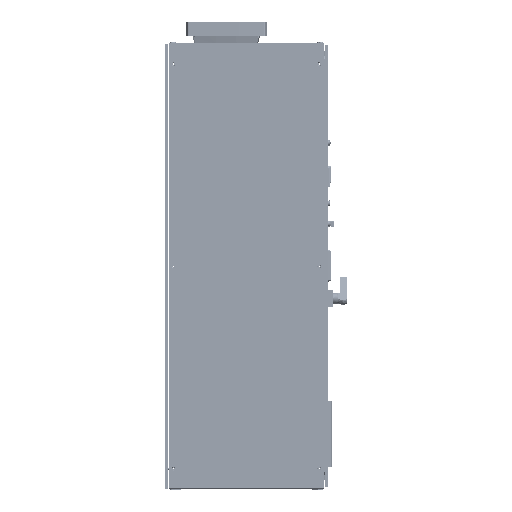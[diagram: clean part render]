
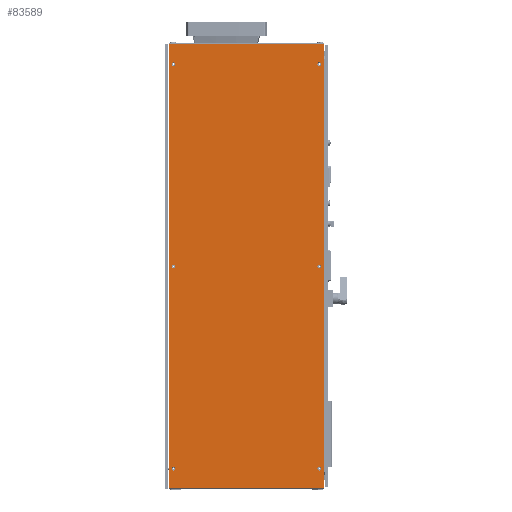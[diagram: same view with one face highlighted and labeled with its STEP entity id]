
A CAD part, left-side view. The second image highlights one B-rep face of the part: STEP entity #83589.
In plain terms, the highlighted planar face has unit normal (-1, 0, 0) as drawn and (0, 0, -1) by its records, which use the part's own axes.
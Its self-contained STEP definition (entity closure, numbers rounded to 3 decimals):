
#82956 = EDGE_CURVE('',#82957,#82957,#82959,.T.);
#82957 = VERTEX_POINT('',#82958);
#82958 = CARTESIAN_POINT('',(369.85,2098.5,0.));
#82959 = CIRCLE('',#82960,9.35);
#82960 = AXIS2_PLACEMENT_3D('',#82961,#82962,#82963);
#82961 = CARTESIAN_POINT('',(360.5,2098.5,0.));
#82962 = DIRECTION('',(0.,-0.,1.));
#82963 = DIRECTION('',(1.,0.,0.));
#83562 = VERTEX_POINT('',#83563);
#83563 = CARTESIAN_POINT('',(-383.75,1.,0.));
#83570 = EDGE_CURVE('',#83571,#83562,#83573,.T.);
#83571 = VERTEX_POINT('',#83572);
#83572 = CARTESIAN_POINT('',(383.75,1.,0.));
#83573 = LINE('',#83574,#83575);
#83574 = CARTESIAN_POINT('',(383.75,1.,0.));
#83575 = VECTOR('',#83576,1.);
#83576 = DIRECTION('',(-1.,-0.,-0.));
#83589 = ADVANCED_FACE('',(#83590,#83601,#83612,#83623,#83634,#83645,
    #83648),#83673,.F.);
#83590 = FACE_BOUND('',#83591,.T.);
#83591 = EDGE_LOOP('',(#83592));
#83592 = ORIENTED_EDGE('',*,*,#83593,.T.);
#83593 = EDGE_CURVE('',#83594,#83594,#83596,.T.);
#83594 = VERTEX_POINT('',#83595);
#83595 = CARTESIAN_POINT('',(-351.15,1098.5,0.));
#83596 = CIRCLE('',#83597,9.35);
#83597 = AXIS2_PLACEMENT_3D('',#83598,#83599,#83600);
#83598 = CARTESIAN_POINT('',(-360.5,1098.5,0.));
#83599 = DIRECTION('',(0.,-0.,1.));
#83600 = DIRECTION('',(1.,0.,0.));
#83601 = FACE_BOUND('',#83602,.T.);
#83602 = EDGE_LOOP('',(#83603));
#83603 = ORIENTED_EDGE('',*,*,#83604,.T.);
#83604 = EDGE_CURVE('',#83605,#83605,#83607,.T.);
#83605 = VERTEX_POINT('',#83606);
#83606 = CARTESIAN_POINT('',(369.85,1098.5,0.));
#83607 = CIRCLE('',#83608,9.35);
#83608 = AXIS2_PLACEMENT_3D('',#83609,#83610,#83611);
#83609 = CARTESIAN_POINT('',(360.5,1098.5,0.));
#83610 = DIRECTION('',(0.,-0.,1.));
#83611 = DIRECTION('',(1.,0.,0.));
#83612 = FACE_BOUND('',#83613,.T.);
#83613 = EDGE_LOOP('',(#83614));
#83614 = ORIENTED_EDGE('',*,*,#83615,.T.);
#83615 = EDGE_CURVE('',#83616,#83616,#83618,.T.);
#83616 = VERTEX_POINT('',#83617);
#83617 = CARTESIAN_POINT('',(-351.15,98.5,0.));
#83618 = CIRCLE('',#83619,9.35);
#83619 = AXIS2_PLACEMENT_3D('',#83620,#83621,#83622);
#83620 = CARTESIAN_POINT('',(-360.5,98.5,0.));
#83621 = DIRECTION('',(0.,-0.,1.));
#83622 = DIRECTION('',(1.,0.,0.));
#83623 = FACE_BOUND('',#83624,.T.);
#83624 = EDGE_LOOP('',(#83625));
#83625 = ORIENTED_EDGE('',*,*,#83626,.T.);
#83626 = EDGE_CURVE('',#83627,#83627,#83629,.T.);
#83627 = VERTEX_POINT('',#83628);
#83628 = CARTESIAN_POINT('',(-351.15,2098.5,0.));
#83629 = CIRCLE('',#83630,9.35);
#83630 = AXIS2_PLACEMENT_3D('',#83631,#83632,#83633);
#83631 = CARTESIAN_POINT('',(-360.5,2098.5,0.));
#83632 = DIRECTION('',(0.,-0.,1.));
#83633 = DIRECTION('',(1.,0.,0.));
#83634 = FACE_BOUND('',#83635,.T.);
#83635 = EDGE_LOOP('',(#83636));
#83636 = ORIENTED_EDGE('',*,*,#83637,.T.);
#83637 = EDGE_CURVE('',#83638,#83638,#83640,.T.);
#83638 = VERTEX_POINT('',#83639);
#83639 = CARTESIAN_POINT('',(369.85,98.5,0.));
#83640 = CIRCLE('',#83641,9.35);
#83641 = AXIS2_PLACEMENT_3D('',#83642,#83643,#83644);
#83642 = CARTESIAN_POINT('',(360.5,98.5,0.));
#83643 = DIRECTION('',(0.,-0.,1.));
#83644 = DIRECTION('',(1.,0.,0.));
#83645 = FACE_BOUND('',#83646,.T.);
#83646 = EDGE_LOOP('',(#83647));
#83647 = ORIENTED_EDGE('',*,*,#82956,.T.);
#83648 = FACE_BOUND('',#83649,.T.);
#83649 = EDGE_LOOP('',(#83650,#83658,#83666,#83672));
#83650 = ORIENTED_EDGE('',*,*,#83651,.T.);
#83651 = EDGE_CURVE('',#83562,#83652,#83654,.T.);
#83652 = VERTEX_POINT('',#83653);
#83653 = CARTESIAN_POINT('',(-383.75,2196.,0.));
#83654 = LINE('',#83655,#83656);
#83655 = CARTESIAN_POINT('',(-383.75,1.,0.));
#83656 = VECTOR('',#83657,1.);
#83657 = DIRECTION('',(0.,1.,0.));
#83658 = ORIENTED_EDGE('',*,*,#83659,.F.);
#83659 = EDGE_CURVE('',#83660,#83652,#83662,.T.);
#83660 = VERTEX_POINT('',#83661);
#83661 = CARTESIAN_POINT('',(383.75,2196.,0.));
#83662 = LINE('',#83663,#83664);
#83663 = CARTESIAN_POINT('',(383.75,2196.,0.));
#83664 = VECTOR('',#83665,1.);
#83665 = DIRECTION('',(-1.,-0.,-0.));
#83666 = ORIENTED_EDGE('',*,*,#83667,.F.);
#83667 = EDGE_CURVE('',#83571,#83660,#83668,.T.);
#83668 = LINE('',#83669,#83670);
#83669 = CARTESIAN_POINT('',(383.75,1.,0.));
#83670 = VECTOR('',#83671,1.);
#83671 = DIRECTION('',(0.,1.,0.));
#83672 = ORIENTED_EDGE('',*,*,#83570,.T.);
#83673 = PLANE('',#83674);
#83674 = AXIS2_PLACEMENT_3D('',#83675,#83676,#83677);
#83675 = CARTESIAN_POINT('',(383.75,1.,0.));
#83676 = DIRECTION('',(0.,0.,1.));
#83677 = DIRECTION('',(1.,0.,-0.));
